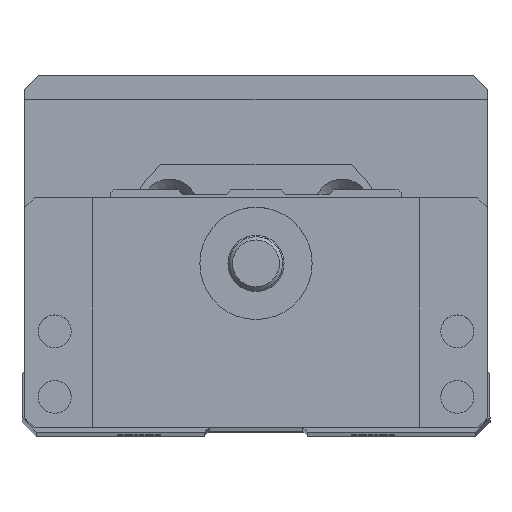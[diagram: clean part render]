
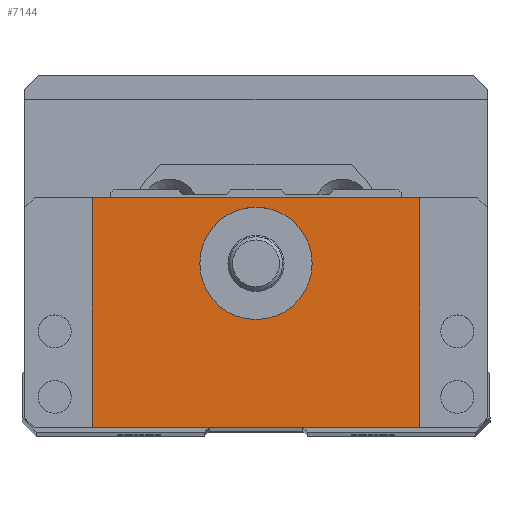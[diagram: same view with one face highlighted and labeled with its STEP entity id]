
A CAD part, top view. The second image highlights one B-rep face of the part: STEP entity #7144.
In plain terms, the highlighted planar face has unit normal (0, 0, 1).
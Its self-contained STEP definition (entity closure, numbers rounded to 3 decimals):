
#4635=LINE('',#19700,#5494);
#4637=LINE('',#19706,#5496);
#4638=LINE('',#19709,#5497);
#4639=LINE('',#19710,#5498);
#5494=VECTOR('',#16598,1.);
#5496=VECTOR('',#16604,1.);
#5497=VECTOR('',#16605,1.);
#5498=VECTOR('',#16606,1.);
#6744=FACE_BOUND('',#8603,.T.);
#6745=FACE_BOUND('',#8604,.T.);
#7144=ADVANCED_FACE('',(#6744,#6745),#7726,.T.);
#7726=PLANE('',#15291);
#8603=EDGE_LOOP('',(#9695));
#8604=EDGE_LOOP('',(#9696,#9697,#9698,#9699));
#9695=ORIENTED_EDGE('',*,*,#13443,.T.);
#9696=ORIENTED_EDGE('',*,*,#13444,.T.);
#9697=ORIENTED_EDGE('',*,*,#13445,.T.);
#9698=ORIENTED_EDGE('',*,*,#13441,.T.);
#9699=ORIENTED_EDGE('',*,*,#13446,.T.);
#12386=VERTEX_POINT('',#19699);
#12387=VERTEX_POINT('',#19701);
#12388=VERTEX_POINT('',#19705);
#12389=VERTEX_POINT('',#19707);
#12390=VERTEX_POINT('',#19708);
#13441=EDGE_CURVE('',#12387,#12386,#4635,.T.);
#13443=EDGE_CURVE('',#12388,#12388,#14773,.T.);
#13444=EDGE_CURVE('',#12389,#12390,#4637,.T.);
#13445=EDGE_CURVE('',#12390,#12387,#4638,.T.);
#13446=EDGE_CURVE('',#12386,#12389,#4639,.T.);
#14773=CIRCLE('',#15290,6.);
#15290=AXIS2_PLACEMENT_3D('',#19704,#16602,#16603);
#15291=AXIS2_PLACEMENT_3D('',#19711,#16607,#16608);
#16598=DIRECTION('',(-1.,0.,0.));
#16602=DIRECTION('',(0.,0.,-1.));
#16603=DIRECTION('',(1.,0.,0.));
#16604=DIRECTION('',(1.,0.,0.));
#16605=DIRECTION('',(0.,1.,0.));
#16606=DIRECTION('',(0.,-1.,0.));
#16607=DIRECTION('',(0.,0.,1.));
#16608=DIRECTION('',(1.,0.,0.));
#19699=CARTESIAN_POINT('',(82.5,-15.5,101.5));
#19700=CARTESIAN_POINT('',(124.7,-15.5,101.5));
#19701=CARTESIAN_POINT('',(117.5,-15.5,101.5));
#19704=CARTESIAN_POINT('',(100.,-22.5,101.5));
#19705=CARTESIAN_POINT('',(106.,-22.5,101.5));
#19706=CARTESIAN_POINT('',(75.3,-40.,101.5));
#19707=CARTESIAN_POINT('',(82.5,-40.,101.5));
#19708=CARTESIAN_POINT('',(117.5,-40.,101.5));
#19709=CARTESIAN_POINT('',(117.5,-40.,101.5));
#19710=CARTESIAN_POINT('',(82.5,-40.,101.5));
#19711=CARTESIAN_POINT('',(124.7,-40.,101.5));
